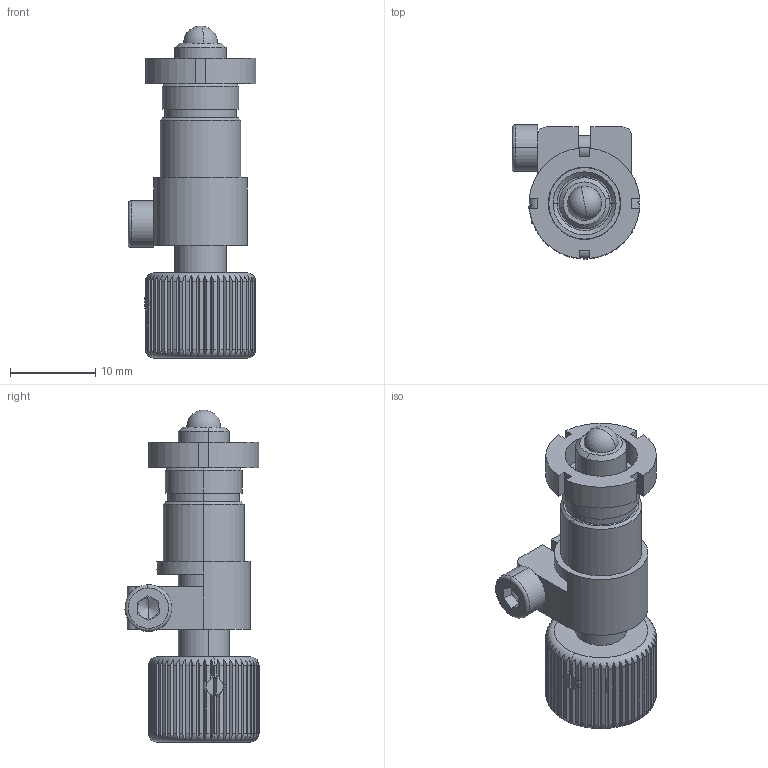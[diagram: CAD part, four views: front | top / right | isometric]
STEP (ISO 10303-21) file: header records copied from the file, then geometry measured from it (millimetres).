
FILE_DESCRIPTION (( 'STEP AP203' ), '1' );
FILE_NAME ('ACFS13-2S.step', '2019-05-09T08:53:58', ( '' ), ( '' ), 'SwSTEP 2.0', 'SolidWorks 2016', '' );
FILE_SCHEMA (( 'CONFIG_CONTROL_DESIGN' ));
Length unit declared in the file: millimetre
Products named in the file (1): ACFS13-2S
Bounding box: 15 x 15.75 x 39 mm (x, y, z)
Surface area: 3081.4 mm2 (no closed solid volume)
Topology: 0 solids, 8 shells, 303 faces, 1068 edges, 772 vertices
Faces by surface type: plane 199, cylinder 84, cone 12, torus 6, sphere 2
Entity records: 12123 total; most frequent: CARTESIAN_POINT 3253, ORIENTED_EDGE 1842, DIRECTION 1658, EDGE_CURVE 1061, VERTEX_POINT 769, VECTOR 626, LINE 626, AXIS2_PLACEMENT_3D 516
